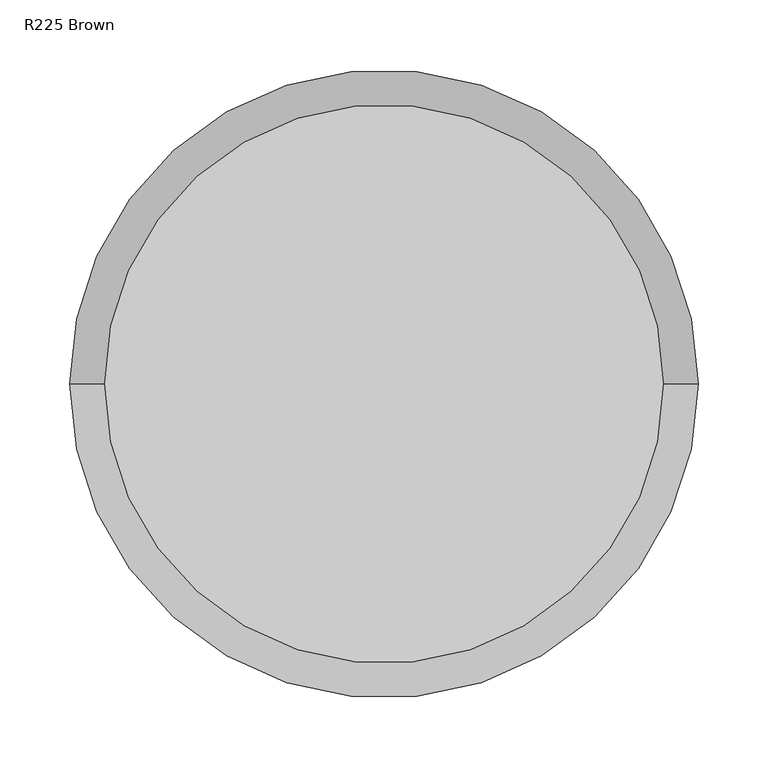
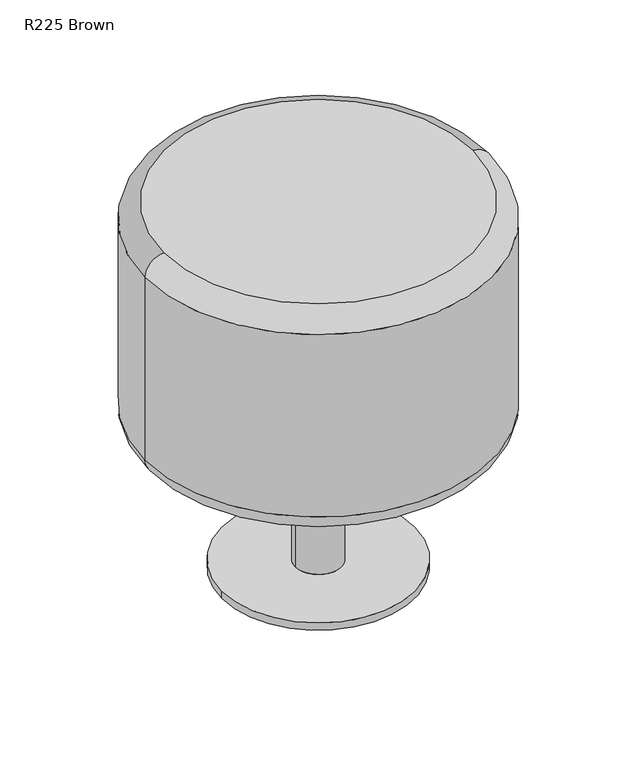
"""IFC4 building model written with IfcOpenShell, lengths in millimetres: furniture geometry, TN.RES.Stool01 : R225 Brown."""

from ifc_helpers import new_model, si_unit, point, frame, origin, origin_with_axes, place, context, project, spatial, circle_curve, ellipse_curve, trimmed, source, transform, mapped, element, save
from ifc_brep_helpers import plane_surface, cylinder_surface, revolved_surface, advanced_brep


def r225_brown_ebbc99b0(model_context):
    return source(origin(), model_context, "Body", "AdvancedBrep", [
        advanced_brep(
        [(200.0, 0.0, 500.0), (-200.0, 0.0, 500.0), (200.0, 0.0, 200.0), (-200.0, 0.0, 200.0), (-225.0, 0.0, 475.0), (225.0, 0.0, 475.0), (225.0, 0.0, 225.0), (-225.0, 0.0, 225.0)],
        [
            (0, 1, circle_curve(frame((0.0, 0.0, 500.0), z_axis=(0.0, 0.0, 1.0), x_axis=(-1.0, 0.0, 0.0)), 200.0)),
            (1, 0, circle_curve(frame((0.0, 0.0, 500.0), z_axis=(0.0, 0.0, 1.0), x_axis=(1.0, 0.0, 0.0)), 200.0)),
            (2, 3, circle_curve(frame((0.0, 0.0, 200.0), z_axis=(0.0, 0.0, -1.0), x_axis=(-1.0, 0.0, 0.0)), 200.0)),
            (3, 2, circle_curve(frame((0.0, 0.0, 200.0), z_axis=(0.0, 0.0, -1.0), x_axis=(1.0, 0.0, 0.0)), 200.0)),
            (4, 5, circle_curve(frame((0.0, 0.0, 475.0), z_axis=(0.0, 0.0, -1.0), x_axis=(-1.0, 0.0, 0.0)), 225.0)),
            (5, 6),
            (6, 7, circle_curve(frame((0.0, 0.0, 225.0), z_axis=(0.0, 0.0, 1.0), x_axis=(-1.0, 0.0, 0.0)), 225.0)),
            (7, 4),
            (5, 4, circle_curve(frame((0.0, 0.0, 475.0), z_axis=(0.0, 0.0, -1.0), x_axis=(-1.0, 0.0, 0.0)), 225.0)),
            (7, 6, circle_curve(frame((0.0, 0.0, 225.0), z_axis=(0.0, 0.0, 1.0), x_axis=(-1.0, 0.0, 0.0)), 225.0)),
            (0, 5, circle_curve(frame((200.0, 0.0, 475.0), z_axis=(0.0, 1.0, 0.0), x_axis=(1.0, 0.0, 0.0)), 25.0)),
            (4, 1, circle_curve(frame((-200.0, 0.0, 475.0), z_axis=(0.0, 1.0, 0.0), x_axis=(-1.0, 0.0, 0.0)), 25.0)),
            (2, 6, circle_curve(frame((200.0, 0.0, 225.0), z_axis=(0.0, -1.0, 0.0), x_axis=(1.0, 0.0, 0.0)), 25.0)),
            (7, 3, circle_curve(frame((-200.0, 0.0, 225.0), z_axis=(0.0, -1.0, 0.0), x_axis=(-1.0, 0.0, 0.0)), 25.0)),
        ],
        [
            plane_surface(frame((-225.0, 0.0, 500.0), z_axis=(0.0, 0.0, 1.0), x_axis=(0.0, -1.0, 0.0))),
            plane_surface(frame((-225.0, 0.0, 200.0), z_axis=(0.0, 0.0, -1.0), x_axis=(0.0, 1.0, 0.0))),
            cylinder_surface(frame((0.0, 0.0, 200.0), z_axis=(0.0, 0.0, 1.0), x_axis=(-1.0, 0.0, 0.0)), 225.0),
            revolved_surface(trimmed(ellipse_curve(frame((-200.0, 0.0, 475.0), z_axis=(0.0, -1.0, 0.0), x_axis=(-1.0, 0.0, 0.0)), 25.0, 25.0), [point((-200.0, 0.0, 500.0))], [point((-225.0, 0.0, 475.0))], True, "CARTESIAN"), (0.0, 0.0, 500.0), (0.0, 0.0, -1.0)),
            revolved_surface(trimmed(ellipse_curve(frame((200.0, 0.0, 475.0), z_axis=(0.0, 1.0, 0.0), x_axis=(1.0, 0.0, 0.0)), 25.0, 25.0), [point((200.0, 0.0, 500.0))], [point((225.0, 0.0, 475.0))], True, "CARTESIAN"), (0.0, 0.0, 500.0), (0.0, 0.0, -1.0)),
            revolved_surface(trimmed(ellipse_curve(frame((-200.0, 0.0, 225.0), z_axis=(0.0, 1.0, 0.0), x_axis=(-1.0, 0.0, 0.0)), 25.0, 25.0), [point((-200.0, 0.0, 200.0))], [point((-225.0, 0.0, 225.0))], True, "CARTESIAN"), (0.0, 0.0, 200.0), (0.0, 0.0, 1.0)),
            revolved_surface(trimmed(ellipse_curve(frame((200.0, 0.0, 225.0), z_axis=(0.0, -1.0, 0.0), x_axis=(1.0, 0.0, 0.0)), 25.0, 25.0), [point((200.0, 0.0, 200.0))], [point((225.0, 0.0, 225.0))], True, "CARTESIAN"), (0.0, 0.0, 200.0), (0.0, 0.0, 1.0)),
        ],
        [
            (0, [[1, 2]]),
            (1, [[3, 4]]),
            (2, [[5, 6, 7, 8]]),
            (2, [[9, -8, 10, -6]]),
            (3, [[11, -5, 12, -1]]),
            (4, [[-11, -2, -12, -9]]),
            (5, [[13, -10, 14, -3]]),
            (6, [[-13, -4, -14, -7]]),
        ],
    ),
        advanced_brep(
        [(30.0, 0.0, 200.0), (-30.0, 0.0, 200.0), (30.0, 0.0, 10.0), (-30.0, 0.0, 10.0), (-125.0, 0.0, 10.0), (125.0, 0.0, 10.0), (-125.0, 0.0, 0.0), (125.0, 0.0, 0.0)],
        [
            (0, 1, circle_curve(frame((0.0, 0.0, 200.0), z_axis=(0.0, 0.0, 1.0), x_axis=(-1.0, 0.0, 0.0)), 30.0)),
            (1, 0, circle_curve(frame((0.0, 0.0, 200.0), z_axis=(0.0, 0.0, 1.0), x_axis=(-1.0, 0.0, 0.0)), 30.0)),
            (0, 2),
            (2, 3, circle_curve(frame((0.0, 0.0, 10.0), z_axis=(0.0, 0.0, 1.0), x_axis=(-1.0, 0.0, 0.0)), 30.0)),
            (3, 1),
            (3, 2, circle_curve(frame((0.0, 0.0, 10.0), z_axis=(0.0, 0.0, 1.0), x_axis=(-1.0, 0.0, 0.0)), 30.0)),
            (4, 5, circle_curve(frame((0.0, 0.0, 10.0), z_axis=(0.0, 0.0, 1.0), x_axis=(1.0, 0.0, 0.0)), 125.0)),
            (5, 4, circle_curve(frame((0.0, 0.0, 10.0), z_axis=(0.0, 0.0, 1.0), x_axis=(1.0, 0.0, 0.0)), 125.0)),
            (6, 7, circle_curve(frame((0.0, 0.0, 0.0), z_axis=(0.0, 0.0, -1.0), x_axis=(1.0, 0.0, 0.0)), 125.0)),
            (7, 6, circle_curve(frame((0.0, 0.0, 0.0), z_axis=(0.0, 0.0, -1.0), x_axis=(1.0, 0.0, 0.0)), 125.0)),
            (4, 6),
            (7, 5),
        ],
        [
            plane_surface(frame((-30.0, 0.0, 200.0), z_axis=(0.0, 0.0, 1.0), x_axis=(0.0, -1.0, 0.0))),
            cylinder_surface(frame((0.0, 0.0, 10.0), z_axis=(0.0, 0.0, 1.0), x_axis=(-1.0, 0.0, 0.0)), 30.0),
            plane_surface(frame((125.0, 0.0, 10.0), z_axis=(0.0, 0.0, 1.0), x_axis=(0.0, 1.0, 0.0))),
            plane_surface(frame((125.0, 0.0, 0.0), z_axis=(0.0, 0.0, -1.0), x_axis=(0.0, -1.0, 0.0))),
            cylinder_surface(origin_with_axes(), 125.0),
        ],
        [
            (0, [[1, 2]]),
            (1, [[-1, 3, 4, 5]]),
            (1, [[-2, -5, 6, -3]]),
            (2, [[7, 8], [-4, -6]]),
            (3, [[9, 10]]),
            (4, [[-7, 11, -10, 12]]),
            (4, [[-8, -12, -9, -11]]),
        ],
    ),
    ])


if __name__ == "__main__":
    model = new_model("IFC4")
    model_context = context("Model", 3, world=origin())
    ifc_project = project(units=[si_unit("LENGTHUNIT", "METRE", prefix="MILLI")], contexts=[model_context])
    site = spatial("IfcSite", under=ifc_project)
    building = spatial("IfcBuilding", under=site)
    placement = place(None, origin())
    r225_brown_shape = r225_brown_ebbc99b0(model_context)
    element("IfcFurniture", 1, ObjectType="TN.RES.Stool01 : R225 Brown", at=placement, inside=building, context=model_context, shape_type="MappedRepresentation", body=[
        mapped(r225_brown_shape, transform((0.0, 0.0, 0.0), x_axis=(1.0, 0.0, 0.0), y_axis=(0.0, 1.0, 0.0), z_axis=(0.0, 0.0, 1.0))),
    ])
    save(model, "model.ifc")
